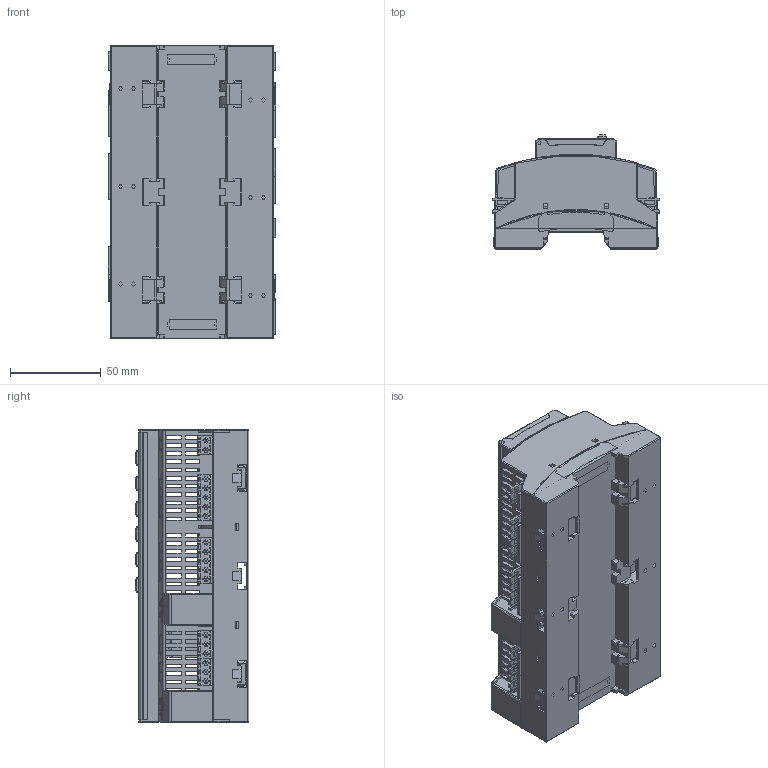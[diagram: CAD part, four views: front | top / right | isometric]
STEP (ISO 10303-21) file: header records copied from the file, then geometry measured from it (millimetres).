
FILE_DESCRIPTION (( 'STEP AP214' ), '1' );
FILE_NAME ('玿200-230.2.2.0.STEP', '2025-03-07T09:58:48', ( '' ), ( '' ), 'SwSTEP 2.0', 'SolidWorks 2019', '' );
FILE_SCHEMA (( 'AUTOMOTIVE_DESIGN' ));
Length unit declared in the file: millimetre
Products named in the file (87): 38^28_ÏÐ200-230.2.2.0; 37^28_ÏÐ200-230.2.2.0; 24^23_22_ÏÐ200-230.2.2.0; 69^67_66_60_ÏÐ200-230.2.2.0; 61^60_ÏÐ200-230.2.2.0; 39^44_28_ÏÐ200-230.2.2.0; 45^28_ÏÐ200-230.2.2.0; 玿200-230.2.2.0; 29^28_ÏÐ200-230.2.2.0; 70^67_66_60_ÏÐ200-230.2.2.0; 43^28_ÏÐ200-230.2.2.0; 35^34_37_28_ÏÐ200-230.2.2.0; 57^28_ÏÐ200-230.2.2.0; 50^53_28_ÏÐ200-230.2.2.0; 40^39_46_28_ÏÐ200-230.2.2.0; 65^60_ÏÐ200-230.2.2.0; 50^52_28_ÏÐ200-230.2.2.0; 18^16_ÏÐ200-230.2.2.0; 32^43_28_ÏÐ200-230.2.2.0; 73^67_66_60_ÏÐ200-230.2.2.0; 66^60_ÏÐ200-230.2.2.0; 53^28_ÏÐ200-230.2.2.0; 17^16_ÏÐ200-230.2.2.0; 54^28_ÏÐ200-230.2.2.0; 41^39_45_28_ÏÐ200-230.2.2.0; 44^28_ÏÐ200-230.2.2.0; 40^39_38_28_ÏÐ200-230.2.2.0; 32^42_28_ÏÐ200-230.2.2.0; 23^22_ÏÐ200-230.2.2.0; 62^61_60_ÏÐ200-230.2.2.0; 48^47_28_ÏÐ200-230.2.2.0; 36^34_37_28_ÏÐ200-230.2.2.0; 40^39_44_28_ÏÐ200-230.2.2.0; 28^玿200-230.2.2.0; 60^玿200-230.2.2.0; 42^28_ÏÐ200-230.2.2.0; 25^玿200-230.2.2.0; 39^46_28_ÏÐ200-230.2.2.0; 34^37_28_ÏÐ200-230.2.2.0; 52^28_ÏÐ200-230.2.2.0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
Assembly tree (106 placements, depth 6):
  玿200-230.2.2.0
    16^玿200-230.2.2.0
      17^16_ÏÐ200-230.2.2.0  x4
      18^16_ÏÐ200-230.2.2.0
    19^玿200-230.2.2.0
      20^19_ÏÐ200-230.2.2.0
    22^玿200-230.2.2.0
      23^22_ÏÐ200-230.2.2.0
        24^23_22_ÏÐ200-230.2.2.0
      23^22_ÏÐ200-230.2.2.0
        24^23_22_ÏÐ200-230.2.2.0
      23^22_ÏÐ200-230.2.2.0
        24^23_22_ÏÐ200-230.2.2.0
    25^玿200-230.2.2.0
      26^25_ÏÐ200-230.2.2.0
      27^25_ÏÐ200-230.2.2.0
    28^玿200-230.2.2.0
      29^28_ÏÐ200-230.2.2.0
        30^29_28_ÏÐ200-230.2.2.0
      31^28_ÏÐ200-230.2.2.0
        32^31_28_ÏÐ200-230.2.2.0
      33^28_ÏÐ200-230.2.2.0
        34^33_28_ÏÐ200-230.2.2.0
          35^34_33_28_ÏÐ200-230.2.2.0
          36^34_33_28_ÏÐ200-230.2.2.0
      37^28_ÏÐ200-230.2.2.0
        34^37_28_ÏÐ200-230.2.2.0
          35^34_37_28_ÏÐ200-230.2.2.0
          36^34_37_28_ÏÐ200-230.2.2.0
      38^28_ÏÐ200-230.2.2.0
        39^38_28_ÏÐ200-230.2.2.0
          40^39_38_28_ÏÐ200-230.2.2.0  x2
          41^39_38_28_ÏÐ200-230.2.2.0
      42^28_ÏÐ200-230.2.2.0
        32^42_28_ÏÐ200-230.2.2.0
      43^28_ÏÐ200-230.2.2.0
        32^43_28_ÏÐ200-230.2.2.0
      44^28_ÏÐ200-230.2.2.0
        39^44_28_ÏÐ200-230.2.2.0
          40^39_44_28_ÏÐ200-230.2.2.0  x2
          41^39_44_28_ÏÐ200-230.2.2.0
      45^28_ÏÐ200-230.2.2.0
        39^45_28_ÏÐ200-230.2.2.0
          40^39_45_28_ÏÐ200-230.2.2.0  x2
          41^39_45_28_ÏÐ200-230.2.2.0
      46^28_ÏÐ200-230.2.2.0
        39^46_28_ÏÐ200-230.2.2.0
          40^39_46_28_ÏÐ200-230.2.2.0  x2
          41^39_46_28_ÏÐ200-230.2.2.0
      47^28_ÏÐ200-230.2.2.0
        48^47_28_ÏÐ200-230.2.2.0
      49^28_ÏÐ200-230.2.2.0
        50^49_28_ÏÐ200-230.2.2.0
      51^28_ÏÐ200-230.2.2.0
        50^51_28_ÏÐ200-230.2.2.0
      52^28_ÏÐ200-230.2.2.0
        50^52_28_ÏÐ200-230.2.2.0
      53^28_ÏÐ200-230.2.2.0
        50^53_28_ÏÐ200-230.2.2.0
      54^28_ÏÐ200-230.2.2.0
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Bounding box: 92.32 x 62.75 x 161.6 mm (x, y, z)
Topology: 176 solids, 200 shells, 17091 faces, 47516 edges, 31196 vertices
Faces by surface type: plane 11468, cylinder 3063, bspline 2336, cone 130, torus 82, sphere 12
Full cylindrical faces by diameter (mm): 0.44 x5, 0.52 x2, 0.6 x8, 0.8 x116, 0.85 x19, 1 x52, 1.05 x12, 1.1 x8, 1.2 x32, 1.4 x3, 1.5 x4, 1.6 x40, 1.8 x1, 2 x4, 2.4 x28, 2.6 x4, 2.9 x40, 3 x2, 3.2 x2, 4 x12, 4.5 x2, 259.3 x1, 259.42 x8
Entity records: 631553 total; most frequent: CARTESIAN_POINT 194210, ORIENTED_EDGE 91272, DIRECTION 67879, EDGE_CURVE 45640, LINE 32181, VECTOR 32181, VERTEX_POINT 30234, EDGE_LOOP 18904
